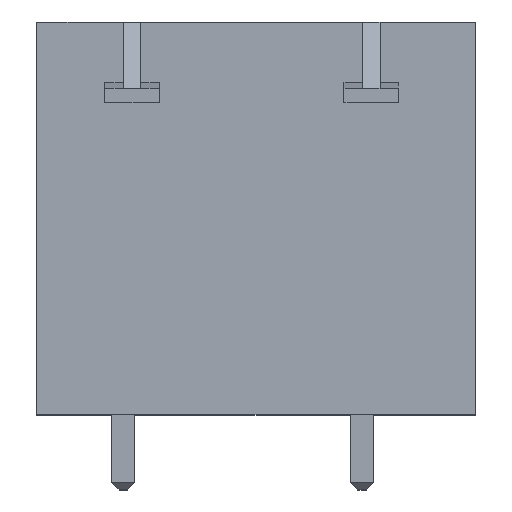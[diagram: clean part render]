
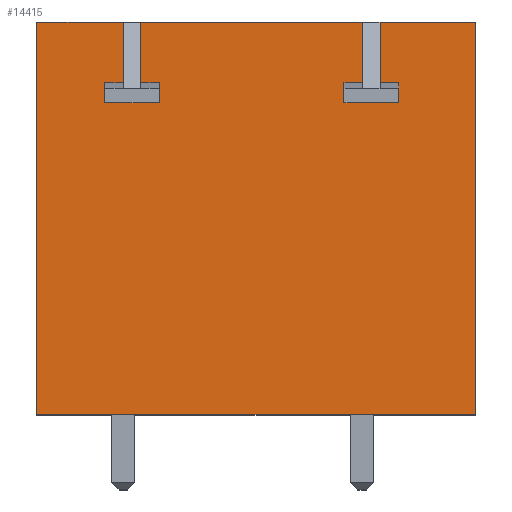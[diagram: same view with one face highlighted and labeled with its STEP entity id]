
A CAD part, top view. The second image highlights one B-rep face of the part: STEP entity #14415.
In plain terms, the highlighted planar face has unit normal (0, 0, 1).
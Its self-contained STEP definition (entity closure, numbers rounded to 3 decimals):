
#57=DIRECTION('',(0.,1.,0.));
#58=VECTOR('',#57,13.61);
#59=CARTESIAN_POINT('',(15.2,0.,-6.195));
#60=LINE('',#59,#58);
#3924=DIRECTION('',(1.,0.,0.));
#3925=VECTOR('',#3924,15.2);
#3926=CARTESIAN_POINT('',(0.,0.,-6.195));
#3927=LINE('',#3926,#3925);
#4026=DIRECTION('',(-1.,0.,0.));
#4027=VECTOR('',#4026,0.65);
#4028=CARTESIAN_POINT('',(3.,11.51,-6.195));
#4029=LINE('',#4028,#4027);
#4030=DIRECTION('',(0.,-1.,0.));
#4031=VECTOR('',#4030,0.5);
#4032=CARTESIAN_POINT('',(2.35,11.51,-6.195));
#4033=LINE('',#4032,#4031);
#4034=DIRECTION('',(-1.,0.,0.));
#4035=VECTOR('',#4034,0.65);
#4036=CARTESIAN_POINT('',(4.25,11.51,-6.195));
#4037=LINE('',#4036,#4035);
#4038=DIRECTION('',(0.,1.,0.));
#4039=VECTOR('',#4038,2.1);
#4040=CARTESIAN_POINT('',(3.6,11.51,-6.195));
#4041=LINE('',#4040,#4039);
#4042=DIRECTION('',(1.,0.,0.));
#4043=VECTOR('',#4042,7.7);
#4044=CARTESIAN_POINT('',(3.6,13.61,-6.195));
#4045=LINE('',#4044,#4043);
#4046=DIRECTION('',(-1.,0.,0.));
#4047=VECTOR('',#4046,0.65);
#4048=CARTESIAN_POINT('',(11.3,11.51,-6.195));
#4049=LINE('',#4048,#4047);
#4050=DIRECTION('',(0.,-1.,0.));
#4051=VECTOR('',#4050,0.5);
#4052=CARTESIAN_POINT('',(10.65,11.51,-6.195));
#4053=LINE('',#4052,#4051);
#4054=DIRECTION('',(-1.,0.,0.));
#4055=VECTOR('',#4054,0.65);
#4056=CARTESIAN_POINT('',(12.55,11.51,-6.195));
#4057=LINE('',#4056,#4055);
#4058=DIRECTION('',(0.,1.,0.));
#4059=VECTOR('',#4058,2.1);
#4060=CARTESIAN_POINT('',(11.9,11.51,-6.195));
#4061=LINE('',#4060,#4059);
#4062=DIRECTION('',(1.,0.,0.));
#4063=VECTOR('',#4062,3.3);
#4064=CARTESIAN_POINT('',(11.9,13.61,-6.195));
#4065=LINE('',#4064,#4063);
#4066=DIRECTION('',(1.,0.,0.));
#4067=VECTOR('',#4066,3.);
#4068=CARTESIAN_POINT('',(0.,13.61,-6.195));
#4069=LINE('',#4068,#4067);
#4078=DIRECTION('',(0.,1.,0.));
#4079=VECTOR('',#4078,2.1);
#4080=CARTESIAN_POINT('',(3.,11.51,-6.195));
#4081=LINE('',#4080,#4079);
#4102=DIRECTION('',(0.,-1.,0.));
#4103=VECTOR('',#4102,0.5);
#4104=CARTESIAN_POINT('',(4.25,11.51,-6.195));
#4105=LINE('',#4104,#4103);
#4114=DIRECTION('',(-1.,0.,0.));
#4115=VECTOR('',#4114,1.9);
#4116=CARTESIAN_POINT('',(4.25,11.01,-6.195));
#4117=LINE('',#4116,#4115);
#4138=DIRECTION('',(0.,1.,0.));
#4139=VECTOR('',#4138,2.1);
#4140=CARTESIAN_POINT('',(11.3,11.51,-6.195));
#4141=LINE('',#4140,#4139);
#4166=DIRECTION('',(0.,-1.,0.));
#4167=VECTOR('',#4166,0.5);
#4168=CARTESIAN_POINT('',(12.55,11.51,-6.195));
#4169=LINE('',#4168,#4167);
#4182=DIRECTION('',(-1.,0.,0.));
#4183=VECTOR('',#4182,1.9);
#4184=CARTESIAN_POINT('',(12.55,11.01,-6.195));
#4185=LINE('',#4184,#4183);
#4206=DIRECTION('',(0.,-1.,0.));
#4207=VECTOR('',#4206,13.61);
#4208=CARTESIAN_POINT('',(0.,13.61,-6.195));
#4209=LINE('',#4208,#4207);
#6546=CARTESIAN_POINT('',(15.2,13.61,-6.195));
#6548=VERTEX_POINT('',#6546);
#6588=CARTESIAN_POINT('',(15.2,0.,-6.195));
#6589=VERTEX_POINT('',#6588);
#6608=CARTESIAN_POINT('',(11.9,13.61,-6.195));
#6609=VERTEX_POINT('',#6608);
#6610=CARTESIAN_POINT('',(11.3,13.61,-6.195));
#6611=VERTEX_POINT('',#6610);
#6612=CARTESIAN_POINT('',(3.6,13.61,-6.195));
#6613=VERTEX_POINT('',#6612);
#6614=CARTESIAN_POINT('',(3.,13.61,-6.195));
#6615=VERTEX_POINT('',#6614);
#6616=CARTESIAN_POINT('',(0.,13.61,-6.195));
#6617=VERTEX_POINT('',#6616);
#7736=CARTESIAN_POINT('',(0.,0.,-6.195));
#7737=VERTEX_POINT('',#7736);
#7740=CARTESIAN_POINT('',(3.,11.51,-6.195));
#7741=VERTEX_POINT('',#7740);
#7742=CARTESIAN_POINT('',(2.35,11.51,-6.195));
#7743=VERTEX_POINT('',#7742);
#7744=CARTESIAN_POINT('',(2.35,11.01,-6.195));
#7745=VERTEX_POINT('',#7744);
#7746=CARTESIAN_POINT('',(4.25,11.01,-6.195));
#7747=VERTEX_POINT('',#7746);
#7748=CARTESIAN_POINT('',(4.25,11.51,-6.195));
#7749=VERTEX_POINT('',#7748);
#7750=CARTESIAN_POINT('',(3.6,11.51,-6.195));
#7751=VERTEX_POINT('',#7750);
#7752=CARTESIAN_POINT('',(11.3,11.51,-6.195));
#7753=VERTEX_POINT('',#7752);
#7754=CARTESIAN_POINT('',(10.65,11.51,-6.195));
#7755=VERTEX_POINT('',#7754);
#7756=CARTESIAN_POINT('',(10.65,11.01,-6.195));
#7757=VERTEX_POINT('',#7756);
#7758=CARTESIAN_POINT('',(12.55,11.01,-6.195));
#7759=VERTEX_POINT('',#7758);
#7760=CARTESIAN_POINT('',(12.55,11.51,-6.195));
#7761=VERTEX_POINT('',#7760);
#7762=CARTESIAN_POINT('',(11.9,11.51,-6.195));
#7763=VERTEX_POINT('',#7762);
#14373=CARTESIAN_POINT('',(15.2,0.31,-6.195));
#14374=DIRECTION('',(0.,0.,1.));
#14375=DIRECTION('',(-1.,0.,0.));
#14376=AXIS2_PLACEMENT_3D('',#14373,#14374,#14375);
#14377=PLANE('',#14376);
#14379=ORIENTED_EDGE('',*,*,#14378,.F.);
#14381=ORIENTED_EDGE('',*,*,#14380,.T.);
#14383=ORIENTED_EDGE('',*,*,#14382,.T.);
#14385=ORIENTED_EDGE('',*,*,#14384,.F.);
#14387=ORIENTED_EDGE('',*,*,#14386,.F.);
#14389=ORIENTED_EDGE('',*,*,#14388,.T.);
#14391=ORIENTED_EDGE('',*,*,#14390,.T.);
#14392=ORIENTED_EDGE('',*,*,#8696,.T.);
#14394=ORIENTED_EDGE('',*,*,#14393,.F.);
#14396=ORIENTED_EDGE('',*,*,#14395,.T.);
#14398=ORIENTED_EDGE('',*,*,#14397,.T.);
#14400=ORIENTED_EDGE('',*,*,#14399,.F.);
#14402=ORIENTED_EDGE('',*,*,#14401,.F.);
#14404=ORIENTED_EDGE('',*,*,#14403,.T.);
#14406=ORIENTED_EDGE('',*,*,#14405,.T.);
#14407=ORIENTED_EDGE('',*,*,#8692,.T.);
#14408=ORIENTED_EDGE('',*,*,#8663,.F.);
#14409=ORIENTED_EDGE('',*,*,#14326,.F.);
#14411=ORIENTED_EDGE('',*,*,#14410,.F.);
#14412=ORIENTED_EDGE('',*,*,#8700,.T.);
#14413=EDGE_LOOP('',(#14379,#14381,#14383,#14385,#14387,#14389,#14391,#14392,
#14394,#14396,#14398,#14400,#14402,#14404,#14406,#14407,#14408,#14409,#14411,
#14412));
#14414=FACE_OUTER_BOUND('',#14413,.F.);
#14415=ADVANCED_FACE('',(#14414),#14377,.T.);
#8663=EDGE_CURVE('',#6589,#6548,#60,.T.);
#8692=EDGE_CURVE('',#6609,#6548,#4065,.T.);
#8696=EDGE_CURVE('',#6613,#6611,#4045,.T.);
#8700=EDGE_CURVE('',#6617,#6615,#4069,.T.);
#14326=EDGE_CURVE('',#7737,#6589,#3927,.T.);
#14378=EDGE_CURVE('',#7741,#6615,#4081,.T.);
#14380=EDGE_CURVE('',#7741,#7743,#4029,.T.);
#14382=EDGE_CURVE('',#7743,#7745,#4033,.T.);
#14384=EDGE_CURVE('',#7747,#7745,#4117,.T.);
#14386=EDGE_CURVE('',#7749,#7747,#4105,.T.);
#14388=EDGE_CURVE('',#7749,#7751,#4037,.T.);
#14390=EDGE_CURVE('',#7751,#6613,#4041,.T.);
#14393=EDGE_CURVE('',#7753,#6611,#4141,.T.);
#14395=EDGE_CURVE('',#7753,#7755,#4049,.T.);
#14397=EDGE_CURVE('',#7755,#7757,#4053,.T.);
#14399=EDGE_CURVE('',#7759,#7757,#4185,.T.);
#14401=EDGE_CURVE('',#7761,#7759,#4169,.T.);
#14403=EDGE_CURVE('',#7761,#7763,#4057,.T.);
#14405=EDGE_CURVE('',#7763,#6609,#4061,.T.);
#14410=EDGE_CURVE('',#6617,#7737,#4209,.T.);
